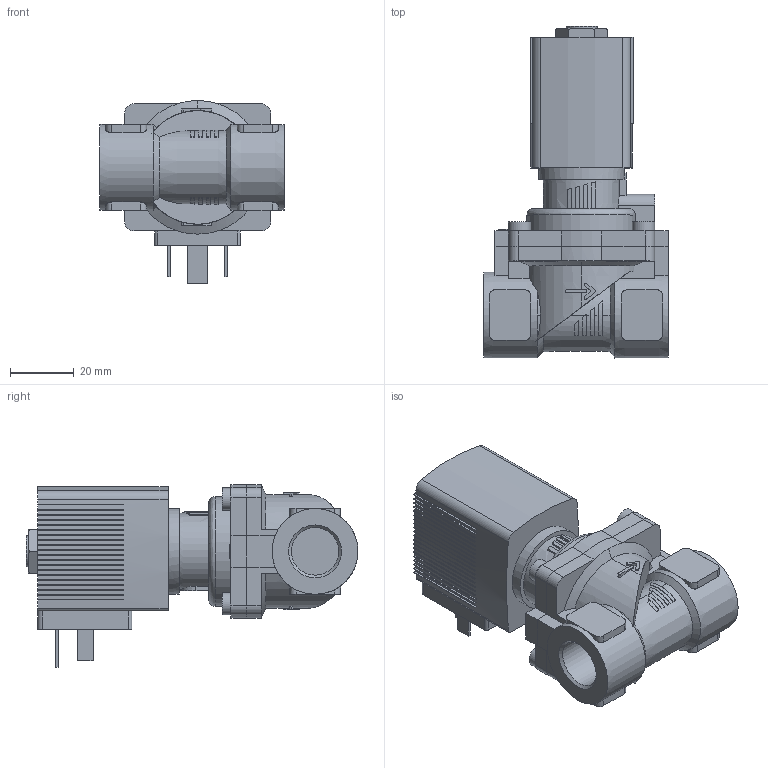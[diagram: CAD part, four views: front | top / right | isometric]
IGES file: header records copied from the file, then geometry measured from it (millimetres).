
Start section: Data from Parasolid IGES Translator 26.0.171, Copyright(c) 2006 Siemens PLM Software. All Rights Reserved.
Global section: file name: 6281-280566-2_2-Way_Solenoid_Valve__Servo-assisted__General_Purpose.igs; native system: By Siemens PLM Incorporated; preprocessor: XPlus GENERIC/IGES 26.0.171; author: Noname; organization: Noname; date: 20240510.125636; units: millimetre
Bounding box: 58 x 104.5 x 57.5 mm (x, y, z)
Surface area: 28811.4 mm2 (no closed solid volume)
Topology: 0 solids, 0 shells, 563 faces, 3160 edges, 3154 vertices
Faces by surface type: extrusion 436, revolution 127
